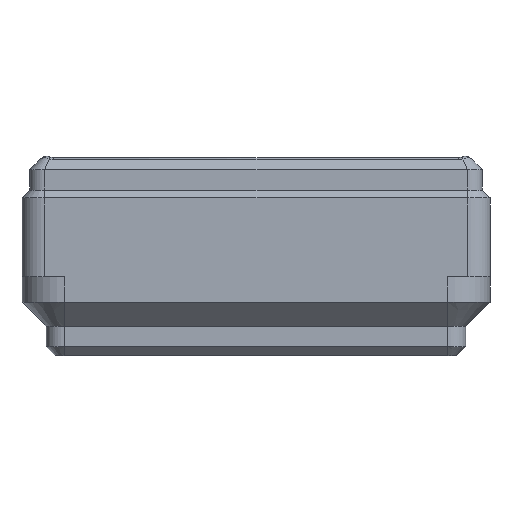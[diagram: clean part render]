
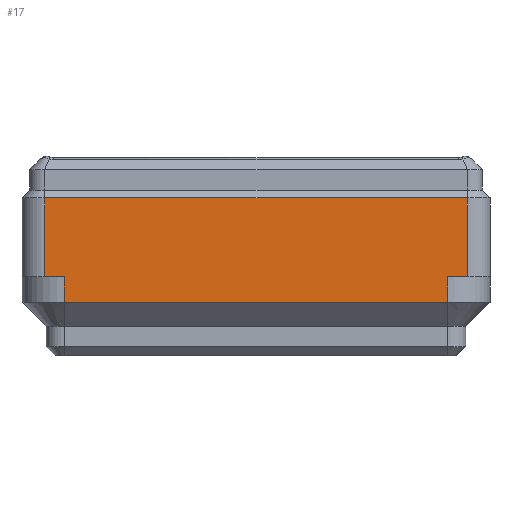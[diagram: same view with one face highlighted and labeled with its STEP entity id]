
A CAD part, left-side view. The second image highlights one B-rep face of the part: STEP entity #17.
In plain terms, the highlighted planar face has unit normal (-1, 0, 0).
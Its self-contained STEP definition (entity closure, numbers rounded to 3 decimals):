
#17 = ADVANCED_FACE('',(#18),#32,.T.);
#18 = FACE_BOUND('',#19,.T.);
#19 = EDGE_LOOP('',(#20,#55,#83,#111,#139,#167,#195,#223));
#20 = ORIENTED_EDGE('',*,*,#21,.T.);
#21 = EDGE_CURVE('',#22,#24,#26,.T.);
#22 = VERTEX_POINT('',#23);
#23 = CARTESIAN_POINT('',(0.,2.,7.));
#24 = VERTEX_POINT('',#25);
#25 = CARTESIAN_POINT('',(0.,2.,14.));
#26 = SURFACE_CURVE('',#27,(#31,#43),.PCURVE_S1.);
#27 = LINE('',#28,#29);
#28 = CARTESIAN_POINT('',(0.,2.,7.));
#29 = VECTOR('',#30,1.);
#30 = DIRECTION('',(0.,0.,1.));
#31 = PCURVE('',#32,#37);
#32 = PLANE('',#33);
#33 = AXIS2_PLACEMENT_3D('',#34,#35,#36);
#34 = CARTESIAN_POINT('',(0.,2.,7.));
#35 = DIRECTION('',(-1.,0.,0.));
#36 = DIRECTION('',(0.,1.,0.));
#37 = DEFINITIONAL_REPRESENTATION('',(#38),#42);
#38 = LINE('',#39,#40);
#39 = CARTESIAN_POINT('',(0.,0.));
#40 = VECTOR('',#41,1.);
#41 = DIRECTION('',(0.,-1.));
#42 = ( GEOMETRIC_REPRESENTATION_CONTEXT(2) 
PARAMETRIC_REPRESENTATION_CONTEXT() REPRESENTATION_CONTEXT('2D SPACE',''
  ) );
#43 = PCURVE('',#44,#49);
#44 = CYLINDRICAL_SURFACE('',#45,2.);
#45 = AXIS2_PLACEMENT_3D('',#46,#47,#48);
#46 = CARTESIAN_POINT('',(2.,2.,7.));
#47 = DIRECTION('',(0.,0.,-1.));
#48 = DIRECTION('',(-1.,0.,0.));
#49 = DEFINITIONAL_REPRESENTATION('',(#50),#54);
#50 = LINE('',#51,#52);
#51 = CARTESIAN_POINT('',(6.283,0.));
#52 = VECTOR('',#53,1.);
#53 = DIRECTION('',(0.,-1.));
#54 = ( GEOMETRIC_REPRESENTATION_CONTEXT(2) 
PARAMETRIC_REPRESENTATION_CONTEXT() REPRESENTATION_CONTEXT('2D SPACE',''
  ) );
#55 = ORIENTED_EDGE('',*,*,#56,.T.);
#56 = EDGE_CURVE('',#24,#57,#59,.T.);
#57 = VERTEX_POINT('',#58);
#58 = CARTESIAN_POINT('',(0.,39.5,14.));
#59 = SURFACE_CURVE('',#60,(#64,#71),.PCURVE_S1.);
#60 = LINE('',#61,#62);
#61 = CARTESIAN_POINT('',(0.,20.75,14.));
#62 = VECTOR('',#63,1.);
#63 = DIRECTION('',(0.,1.,0.));
#64 = PCURVE('',#32,#65);
#65 = DEFINITIONAL_REPRESENTATION('',(#66),#70);
#66 = LINE('',#67,#68);
#67 = CARTESIAN_POINT('',(18.75,-7.));
#68 = VECTOR('',#69,1.);
#69 = DIRECTION('',(1.,0.));
#70 = ( GEOMETRIC_REPRESENTATION_CONTEXT(2) 
PARAMETRIC_REPRESENTATION_CONTEXT() REPRESENTATION_CONTEXT('2D SPACE',''
  ) );
#71 = PCURVE('',#72,#77);
#72 = PLANE('',#73);
#73 = AXIS2_PLACEMENT_3D('',#74,#75,#76);
#74 = CARTESIAN_POINT('',(0.7,20.75,14.7));
#75 = DIRECTION('',(-0.707,0.,0.707));
#76 = DIRECTION('',(-0.,-1.,0.));
#77 = DEFINITIONAL_REPRESENTATION('',(#78),#82);
#78 = LINE('',#79,#80);
#79 = CARTESIAN_POINT('',(0.,-0.99));
#80 = VECTOR('',#81,1.);
#81 = DIRECTION('',(-1.,0.));
#82 = ( GEOMETRIC_REPRESENTATION_CONTEXT(2) 
PARAMETRIC_REPRESENTATION_CONTEXT() REPRESENTATION_CONTEXT('2D SPACE',''
  ) );
#83 = ORIENTED_EDGE('',*,*,#84,.F.);
#84 = EDGE_CURVE('',#85,#57,#87,.T.);
#85 = VERTEX_POINT('',#86);
#86 = CARTESIAN_POINT('',(0.,39.5,7.));
#87 = SURFACE_CURVE('',#88,(#92,#99),.PCURVE_S1.);
#88 = LINE('',#89,#90);
#89 = CARTESIAN_POINT('',(0.,39.5,7.));
#90 = VECTOR('',#91,1.);
#91 = DIRECTION('',(0.,0.,1.));
#92 = PCURVE('',#32,#93);
#93 = DEFINITIONAL_REPRESENTATION('',(#94),#98);
#94 = LINE('',#95,#96);
#95 = CARTESIAN_POINT('',(37.5,0.));
#96 = VECTOR('',#97,1.);
#97 = DIRECTION('',(0.,-1.));
#98 = ( GEOMETRIC_REPRESENTATION_CONTEXT(2) 
PARAMETRIC_REPRESENTATION_CONTEXT() REPRESENTATION_CONTEXT('2D SPACE',''
  ) );
#99 = PCURVE('',#100,#105);
#100 = CYLINDRICAL_SURFACE('',#101,2.);
#101 = AXIS2_PLACEMENT_3D('',#102,#103,#104);
#102 = CARTESIAN_POINT('',(2.,39.5,7.));
#103 = DIRECTION('',(0.,0.,-1.));
#104 = DIRECTION('',(-1.,0.,0.));
#105 = DEFINITIONAL_REPRESENTATION('',(#106),#110);
#106 = LINE('',#107,#108);
#107 = CARTESIAN_POINT('',(0.,0.));
#108 = VECTOR('',#109,1.);
#109 = DIRECTION('',(0.,-1.));
#110 = ( GEOMETRIC_REPRESENTATION_CONTEXT(2) 
PARAMETRIC_REPRESENTATION_CONTEXT() REPRESENTATION_CONTEXT('2D SPACE',''
  ) );
#111 = ORIENTED_EDGE('',*,*,#112,.F.);
#112 = EDGE_CURVE('',#113,#85,#115,.T.);
#113 = VERTEX_POINT('',#114);
#114 = CARTESIAN_POINT('',(0.,37.75,7.));
#115 = SURFACE_CURVE('',#116,(#120,#127),.PCURVE_S1.);
#116 = LINE('',#117,#118);
#117 = CARTESIAN_POINT('',(0.,20.75,7.));
#118 = VECTOR('',#119,1.);
#119 = DIRECTION('',(0.,1.,0.));
#120 = PCURVE('',#32,#121);
#121 = DEFINITIONAL_REPRESENTATION('',(#122),#126);
#122 = LINE('',#123,#124);
#123 = CARTESIAN_POINT('',(18.75,0.));
#124 = VECTOR('',#125,1.);
#125 = DIRECTION('',(1.,0.));
#126 = ( GEOMETRIC_REPRESENTATION_CONTEXT(2) 
PARAMETRIC_REPRESENTATION_CONTEXT() REPRESENTATION_CONTEXT('2D SPACE',''
  ) );
#127 = PCURVE('',#128,#133);
#128 = PLANE('',#129);
#129 = AXIS2_PLACEMENT_3D('',#130,#131,#132);
#130 = CARTESIAN_POINT('',(20.75,20.75,7.));
#131 = DIRECTION('',(0.,0.,1.));
#132 = DIRECTION('',(1.,0.,-0.));
#133 = DEFINITIONAL_REPRESENTATION('',(#134),#138);
#134 = LINE('',#135,#136);
#135 = CARTESIAN_POINT('',(-20.75,0.));
#136 = VECTOR('',#137,1.);
#137 = DIRECTION('',(0.,1.));
#138 = ( GEOMETRIC_REPRESENTATION_CONTEXT(2) 
PARAMETRIC_REPRESENTATION_CONTEXT() REPRESENTATION_CONTEXT('2D SPACE',''
  ) );
#139 = ORIENTED_EDGE('',*,*,#140,.F.);
#140 = EDGE_CURVE('',#141,#113,#143,.T.);
#141 = VERTEX_POINT('',#142);
#142 = CARTESIAN_POINT('',(0.,37.75,4.75));
#143 = SURFACE_CURVE('',#144,(#148,#155),.PCURVE_S1.);
#144 = LINE('',#145,#146);
#145 = CARTESIAN_POINT('',(0.,37.75,4.75));
#146 = VECTOR('',#147,1.);
#147 = DIRECTION('',(0.,0.,1.));
#148 = PCURVE('',#32,#149);
#149 = DEFINITIONAL_REPRESENTATION('',(#150),#154);
#150 = LINE('',#151,#152);
#151 = CARTESIAN_POINT('',(35.75,2.25));
#152 = VECTOR('',#153,1.);
#153 = DIRECTION('',(0.,-1.));
#154 = ( GEOMETRIC_REPRESENTATION_CONTEXT(2) 
PARAMETRIC_REPRESENTATION_CONTEXT() REPRESENTATION_CONTEXT('2D SPACE',''
  ) );
#155 = PCURVE('',#156,#161);
#156 = CYLINDRICAL_SURFACE('',#157,3.75);
#157 = AXIS2_PLACEMENT_3D('',#158,#159,#160);
#158 = CARTESIAN_POINT('',(3.75,37.75,4.75));
#159 = DIRECTION('',(0.,0.,-1.));
#160 = DIRECTION('',(-1.,0.,0.));
#161 = DEFINITIONAL_REPRESENTATION('',(#162),#166);
#162 = LINE('',#163,#164);
#163 = CARTESIAN_POINT('',(0.,0.));
#164 = VECTOR('',#165,1.);
#165 = DIRECTION('',(0.,-1.));
#166 = ( GEOMETRIC_REPRESENTATION_CONTEXT(2) 
PARAMETRIC_REPRESENTATION_CONTEXT() REPRESENTATION_CONTEXT('2D SPACE',''
  ) );
#167 = ORIENTED_EDGE('',*,*,#168,.F.);
#168 = EDGE_CURVE('',#169,#141,#171,.T.);
#169 = VERTEX_POINT('',#170);
#170 = CARTESIAN_POINT('',(0.,3.75,4.75));
#171 = SURFACE_CURVE('',#172,(#176,#183),.PCURVE_S1.);
#172 = LINE('',#173,#174);
#173 = CARTESIAN_POINT('',(0.,20.75,4.75));
#174 = VECTOR('',#175,1.);
#175 = DIRECTION('',(0.,1.,0.));
#176 = PCURVE('',#32,#177);
#177 = DEFINITIONAL_REPRESENTATION('',(#178),#182);
#178 = LINE('',#179,#180);
#179 = CARTESIAN_POINT('',(18.75,2.25));
#180 = VECTOR('',#181,1.);
#181 = DIRECTION('',(1.,0.));
#182 = ( GEOMETRIC_REPRESENTATION_CONTEXT(2) 
PARAMETRIC_REPRESENTATION_CONTEXT() REPRESENTATION_CONTEXT('2D SPACE',''
  ) );
#183 = PCURVE('',#184,#189);
#184 = PLANE('',#185);
#185 = AXIS2_PLACEMENT_3D('',#186,#187,#188);
#186 = CARTESIAN_POINT('',(0.,20.75,4.75));
#187 = DIRECTION('',(-0.707,0.,-0.707));
#188 = DIRECTION('',(0.,-1.,-0.));
#189 = DEFINITIONAL_REPRESENTATION('',(#190),#194);
#190 = LINE('',#191,#192);
#191 = CARTESIAN_POINT('',(0.,0.));
#192 = VECTOR('',#193,1.);
#193 = DIRECTION('',(-1.,0.));
#194 = ( GEOMETRIC_REPRESENTATION_CONTEXT(2) 
PARAMETRIC_REPRESENTATION_CONTEXT() REPRESENTATION_CONTEXT('2D SPACE',''
  ) );
#195 = ORIENTED_EDGE('',*,*,#196,.T.);
#196 = EDGE_CURVE('',#169,#197,#199,.T.);
#197 = VERTEX_POINT('',#198);
#198 = CARTESIAN_POINT('',(0.,3.75,7.));
#199 = SURFACE_CURVE('',#200,(#204,#211),.PCURVE_S1.);
#200 = LINE('',#201,#202);
#201 = CARTESIAN_POINT('',(0.,3.75,4.75));
#202 = VECTOR('',#203,1.);
#203 = DIRECTION('',(0.,0.,1.));
#204 = PCURVE('',#32,#205);
#205 = DEFINITIONAL_REPRESENTATION('',(#206),#210);
#206 = LINE('',#207,#208);
#207 = CARTESIAN_POINT('',(1.75,2.25));
#208 = VECTOR('',#209,1.);
#209 = DIRECTION('',(0.,-1.));
#210 = ( GEOMETRIC_REPRESENTATION_CONTEXT(2) 
PARAMETRIC_REPRESENTATION_CONTEXT() REPRESENTATION_CONTEXT('2D SPACE',''
  ) );
#211 = PCURVE('',#212,#217);
#212 = CYLINDRICAL_SURFACE('',#213,3.75);
#213 = AXIS2_PLACEMENT_3D('',#214,#215,#216);
#214 = CARTESIAN_POINT('',(3.75,3.75,4.75));
#215 = DIRECTION('',(0.,0.,-1.));
#216 = DIRECTION('',(-1.,0.,0.));
#217 = DEFINITIONAL_REPRESENTATION('',(#218),#222);
#218 = LINE('',#219,#220);
#219 = CARTESIAN_POINT('',(6.283,0.));
#220 = VECTOR('',#221,1.);
#221 = DIRECTION('',(0.,-1.));
#222 = ( GEOMETRIC_REPRESENTATION_CONTEXT(2) 
PARAMETRIC_REPRESENTATION_CONTEXT() REPRESENTATION_CONTEXT('2D SPACE',''
  ) );
#223 = ORIENTED_EDGE('',*,*,#224,.F.);
#224 = EDGE_CURVE('',#22,#197,#225,.T.);
#225 = SURFACE_CURVE('',#226,(#230,#237),.PCURVE_S1.);
#226 = LINE('',#227,#228);
#227 = CARTESIAN_POINT('',(0.,20.75,7.));
#228 = VECTOR('',#229,1.);
#229 = DIRECTION('',(0.,1.,0.));
#230 = PCURVE('',#32,#231);
#231 = DEFINITIONAL_REPRESENTATION('',(#232),#236);
#232 = LINE('',#233,#234);
#233 = CARTESIAN_POINT('',(18.75,0.));
#234 = VECTOR('',#235,1.);
#235 = DIRECTION('',(1.,0.));
#236 = ( GEOMETRIC_REPRESENTATION_CONTEXT(2) 
PARAMETRIC_REPRESENTATION_CONTEXT() REPRESENTATION_CONTEXT('2D SPACE',''
  ) );
#237 = PCURVE('',#238,#243);
#238 = PLANE('',#239);
#239 = AXIS2_PLACEMENT_3D('',#240,#241,#242);
#240 = CARTESIAN_POINT('',(20.75,20.75,7.));
#241 = DIRECTION('',(0.,0.,1.));
#242 = DIRECTION('',(1.,0.,-0.));
#243 = DEFINITIONAL_REPRESENTATION('',(#244),#248);
#244 = LINE('',#245,#246);
#245 = CARTESIAN_POINT('',(-20.75,0.));
#246 = VECTOR('',#247,1.);
#247 = DIRECTION('',(0.,1.));
#248 = ( GEOMETRIC_REPRESENTATION_CONTEXT(2) 
PARAMETRIC_REPRESENTATION_CONTEXT() REPRESENTATION_CONTEXT('2D SPACE',''
  ) );
